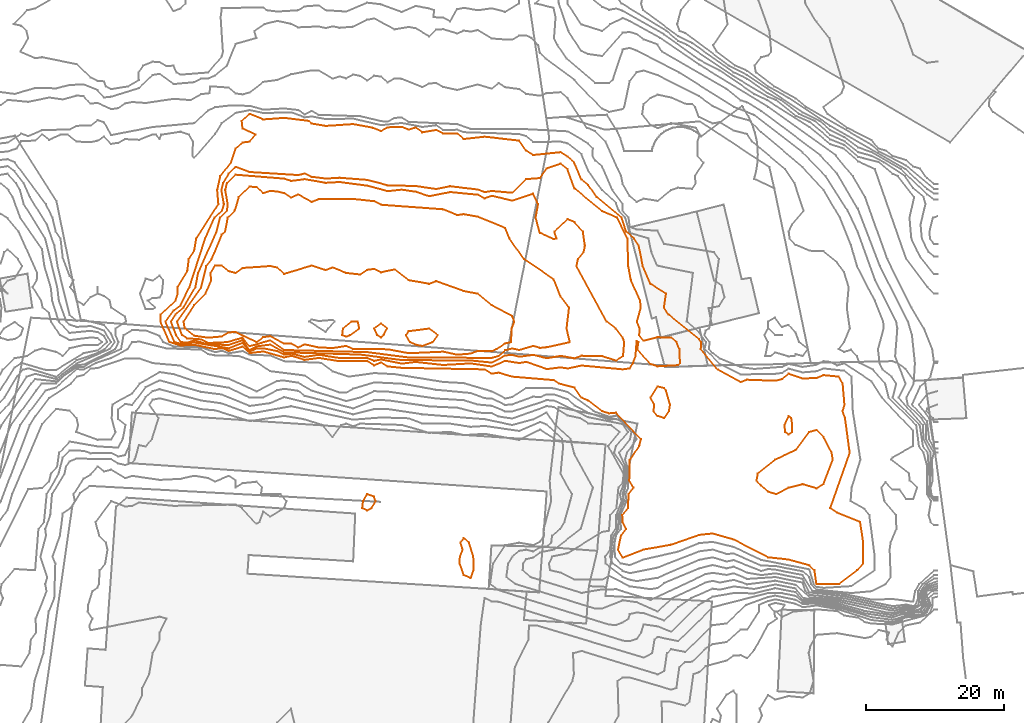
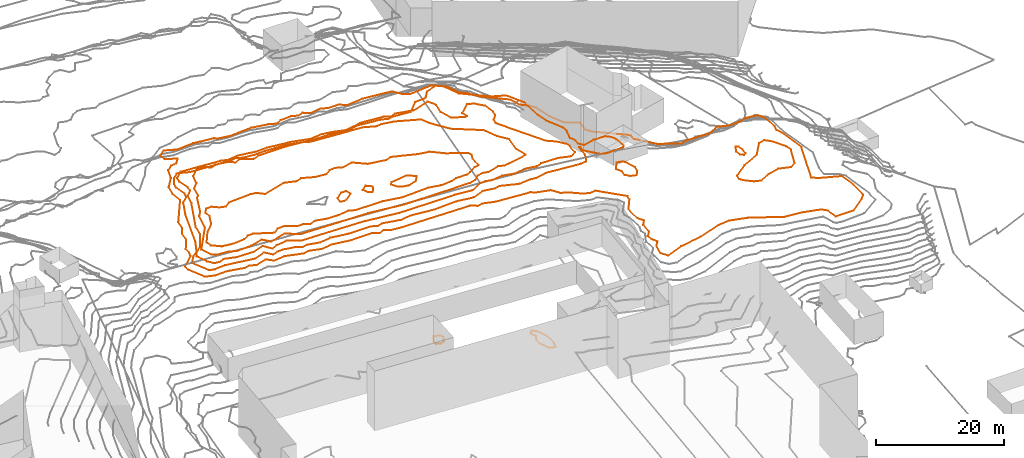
# Not in any storey, part 271 of 419: 13 proxies.
"""IFC2X3 model written with IfcOpenShell, lengths in metres."""

from ifc_helpers import new_model, entity, si_unit, frame, origin_with_axes, place, context, subcontext, project, element, save


model = new_model("IFC2X3")

# Units and contexts
model_context = context("Model", 3, precision=1e-05, world=origin_with_axes())
body_context = subcontext(model_context, "Body", "Model", "MODEL_VIEW")
ifc_project = project(units=[si_unit("AREAUNIT", "SQUARE_METRE"), si_unit("LENGTHUNIT", "METRE")], contexts=[model_context])

# Proxies
proxy_1_placement = place(None, frame((890.5037877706, 466.8976909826, 86.0), z_axis=(0.0, 0.0, 1.0), x_axis=(1.0, 0.0, 0.0)))
element("IfcBuildingElementProxy", 1, at=proxy_1_placement, Name="Contour 86.0 m", ObjectType="NOTDEFINED", context=body_context, shape_type="GeometricCurveSet", body=[
    entity("IfcGeometricCurveSet", [entity("IfcPolyline", [entity("IfcCartesianPoint", [1.1437787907, 0.0, 0.0]), entity("IfcCartesianPoint", [0.5882326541, -0.2127621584, 0.0]), entity("IfcCartesianPoint", [0.0, 0.0, 0.0]), entity("IfcCartesianPoint", [0.123954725, 1.0, 0.0]), entity("IfcCartesianPoint", [1.3215625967, 2.0, 0.0]), entity("IfcCartesianPoint", [2.2549417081, 2.0, 0.0]), entity("IfcCartesianPoint", [2.4728536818, 1.0, 0.0]), entity("IfcCartesianPoint", [1.1437787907, 0.0, 0.0])])]),
])
proxy_2_placement = place(None, frame((895.1336950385, 467.8976909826, 86.0), z_axis=(0.0, 0.0, 1.0), x_axis=(1.0, 0.0, 0.0)))
element("IfcBuildingElementProxy", 2, at=proxy_2_placement, Name="Contour 86.0 m", ObjectType="NOTDEFINED", context=body_context, shape_type="GeometricCurveSet", body=[
    entity("IfcGeometricCurveSet", [entity("IfcPolyline", [entity("IfcCartesianPoint", [1.3583304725, -1.0, 0.0]), entity("IfcCartesianPoint", [0.9583253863, -1.3157926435, 0.0]), entity("IfcCartesianPoint", [0.4365819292, -1.0, 0.0]), entity("IfcCartesianPoint", [0.0, 0.0, 0.0]), entity("IfcCartesianPoint", [0.9583253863, 0.7187611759, 0.0]), entity("IfcCartesianPoint", [1.8429464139, 0.0, 0.0]), entity("IfcCartesianPoint", [1.3583304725, -1.0, 0.0])])]),
])
proxy_3_placement = place(None, frame((899.7235983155, 466.8976909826, 86.0), z_axis=(0.0, 0.0, 1.0), x_axis=(1.0, 0.0, 0.0)))
element("IfcBuildingElementProxy", 3, at=proxy_3_placement, Name="Contour 86.0 m", ObjectType="NOTDEFINED", context=body_context, shape_type="GeometricCurveSet", body=[
    entity("IfcGeometricCurveSet", [entity("IfcPolyline", [entity("IfcCartesianPoint", [3.8845543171, -1.0, 0.0]), entity("IfcCartesianPoint", [2.3684221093, -1.5681786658, 0.0]), entity("IfcCartesianPoint", [1.3684221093, -1.3749986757, 0.0]), entity("IfcCartesianPoint", [0.5743057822, -1.0, 0.0]), entity("IfcCartesianPoint", [0.0, 0.0, 0.0]), entity("IfcCartesianPoint", [0.3684221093, 0.5833359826, 0.0]), entity("IfcCartesianPoint", [3.3684221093, 0.9629556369, 0.0]), entity("IfcCartesianPoint", [4.5991868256, 0.0, 0.0]), entity("IfcCartesianPoint", [3.8845543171, -1.0, 0.0])])]),
])
proxy_4_placement = place(None, frame((867.5657029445, 468.8976909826, 85.0), z_axis=(0.0, 0.0, 1.0), x_axis=(1.0, 0.0, 0.0)))
element("IfcBuildingElementProxy", 4, at=proxy_4_placement, Name="Contour 85.0 m", ObjectType="NOTDEFINED", context=body_context, shape_type="GeometricCurveSet", body=[
    entity("IfcGeometricCurveSet", [entity("IfcPolyline", [entity("IfcCartesianPoint", [45.2442641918, -4.0, 0.0]), entity("IfcCartesianPoint", [44.5263174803, -4.3218394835, 0.0]), entity("IfcCartesianPoint", [42.5263174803, -4.2708358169, 0.0]), entity("IfcCartesianPoint", [41.5263174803, -4.6621611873, 0.0]), entity("IfcCartesianPoint", [39.5263174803, -4.8250014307, 0.0]), entity("IfcCartesianPoint", [37.5263174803, -4.3837227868, 0.0]), entity("IfcCartesianPoint", [32.5263174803, -4.6091974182, 0.0]), entity("IfcCartesianPoint", [29.5263174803, -4.0387620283, 0.0]), entity("IfcCartesianPoint", [24.5263174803, -4.000000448, 0.0]), entity("IfcCartesianPoint", [23.5263174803, -3.5526294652, 0.0]), entity("IfcCartesianPoint", [21.5263174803, -3.8571409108, 0.0]), entity("IfcCartesianPoint", [19.5263174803, -3.7746448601, 0.0]), entity("IfcCartesianPoint", [17.5263174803, -3.3214259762, 0.0]), entity("IfcCartesianPoint", [16.5263174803, -3.7699966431, 0.0]), entity("IfcCartesianPoint", [15.5263174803, -3.2045464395, 0.0]), entity("IfcCartesianPoint", [14.5263174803, -3.2328755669, 0.0]), entity("IfcCartesianPoint", [12.5263174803, -2.1377260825, 0.0]), entity("IfcCartesianPoint", [11.5263174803, -2.2818783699, 0.0]), entity("IfcCartesianPoint", [10.5263134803, -3.0, 0.0]), entity("IfcCartesianPoint", [7.5263174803, -1.564705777, 0.0]), entity("IfcCartesianPoint", [6.5263174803, -1.584616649, 0.0]), entity("IfcCartesianPoint", [5.5263174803, -2.1739164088, 0.0]), entity("IfcCartesianPoint", [3.5263174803, -2.3666696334, 0.0]), entity("IfcCartesianPoint", [1.5263174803, -2.0794695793, 0.0]), entity("IfcCartesianPoint", [0.1788568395, -1.0, 0.0]), entity("IfcCartesianPoint", [0.0, 0.0, 0.0]), entity("IfcCartesianPoint", [1.5263174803, 2.3655903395, 0.0]), entity("IfcCartesianPoint", [3.1513150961, 4.0, 0.0]), entity("IfcCartesianPoint", [3.999046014, 6.0, 0.0]), entity("IfcCartesianPoint", [3.8834655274, 7.0, 0.0]), entity("IfcCartesianPoint", [4.5263174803, 8.0535694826, 0.0]), entity("IfcCartesianPoint", [5.5263174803, 8.0526231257, 0.0]), entity("IfcCartesianPoint", [6.5263174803, 7.259261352, 0.0]), entity("IfcCartesianPoint", [7.5263174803, 7.000004, 0.0]), entity("IfcCartesianPoint", [8.5263174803, 7.7222269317, 0.0]), entity("IfcCartesianPoint", [12.5263174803, 8.0000047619, 0.0]), entity("IfcCartesianPoint", [13.5263174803, 7.7826115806, 0.0]), entity("IfcCartesianPoint", [14.5263174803, 6.873681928, 0.0]), entity("IfcCartesianPoint", [18.5263174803, 8.0740625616, 0.0]), entity("IfcCartesianPoint", [20.5263174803, 7.4166640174, 0.0]), entity("IfcCartesianPoint", [21.5263174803, 7.80768215, 0.0]), entity("IfcCartesianPoint", [23.5263174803, 7.0000076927, 0.0]), entity("IfcCartesianPoint", [25.5263174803, 6.7727280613, 0.0]), entity("IfcCartesianPoint", [26.5263174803, 7.4615294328, 0.0]), entity("IfcCartesianPoint", [27.5263174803, 7.5882326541, 0.0]), entity("IfcCartesianPoint", [28.5263174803, 7.0952225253, 0.0]), entity("IfcCartesianPoint", [30.5263174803, 7.5238147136, 0.0]), entity("IfcCartesianPoint", [32.5263174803, 5.9545442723, 0.0]), entity("IfcCartesianPoint", [35.5263174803, 5.4375089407, 0.0]), entity("IfcCartesianPoint", [36.5263174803, 5.8125029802, 0.0]), entity("IfcCartesianPoint", [40.5263174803, 4.3809627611, 0.0]), entity("IfcCartesianPoint", [42.5263174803, 4.0000045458, 0.0]), entity("IfcCartesianPoint", [44.5263174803, 2.333333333, 0.0]), entity("IfcCartesianPoint", [47.5263174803, 0.7778060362, 0.0]), entity("IfcCartesianPoint", [47.8306595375, 0.0, 0.0]), entity("IfcCartesianPoint", [47.4429682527, -1.0, 0.0]), entity("IfcCartesianPoint", [47.3684311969, -3.0, 0.0]), entity("IfcCartesianPoint", [46.5263174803, -3.1720468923, 0.0]), entity("IfcCartesianPoint", [45.2442641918, -4.0, 0.0])])]),
])
proxy_5_placement = place(None, frame((865.7420210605, 468.8976909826, 83.0), z_axis=(0.0, 0.0, 1.0), x_axis=(1.0, 0.0, 0.0)))
element("IfcBuildingElementProxy", 5, at=proxy_5_placement, Name="Contour 83.0 m", ObjectType="NOTDEFINED", context=body_context, shape_type="GeometricCurveSet", body=[
    entity("IfcGeometricCurveSet", [entity("IfcPolyline", [entity("IfcCartesianPoint", [65.3857078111, -5.0, 0.0]), entity("IfcCartesianPoint", [64.3499993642, -5.6747005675, 0.0]), entity("IfcCartesianPoint", [62.3499993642, -5.0441158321, 0.0]), entity("IfcCartesianPoint", [59.3499993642, -4.9722266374, 0.0]), entity("IfcCartesianPoint", [58.3499993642, -5.3378388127, 0.0]), entity("IfcCartesianPoint", [56.3499993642, -5.0000016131, 0.0]), entity("IfcCartesianPoint", [54.3499993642, -5.333333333, 0.0]), entity("IfcCartesianPoint", [52.3499993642, -4.851350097, 0.0]), entity("IfcCartesianPoint", [50.3499993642, -5.1181794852, 0.0]), entity("IfcCartesianPoint", [49.3499993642, -4.8504648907, 0.0]), entity("IfcCartesianPoint", [48.3499993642, -4.9318209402, 0.0]), entity("IfcCartesianPoint", [46.3499993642, -5.9657514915, 0.0]), entity("IfcCartesianPoint", [43.3499993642, -5.6603769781, 0.0]), entity("IfcCartesianPoint", [33.3499993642, -5.6009861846, 0.0]), entity("IfcCartesianPoint", [27.3499993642, -4.8046873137, 0.0]), entity("IfcCartesianPoint", [16.3499993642, -4.4752485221, 0.0]), entity("IfcCartesianPoint", [14.3499993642, -3.3636345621, 0.0]), entity("IfcCartesianPoint", [12.3499993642, -3.6191944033, 0.0]), entity("IfcCartesianPoint", [11.3499993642, -4.1140148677, 0.0]), entity("IfcCartesianPoint", [10.3499993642, -2.7102476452, 0.0]), entity("IfcCartesianPoint", [8.3499993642, -3.4106273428, 0.0]), entity("IfcCartesianPoint", [5.3499993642, -3.3396229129, 0.0]), entity("IfcCartesianPoint", [3.3499993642, -2.741721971, 0.0]), entity("IfcCartesianPoint", [2.3499993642, -3.0812642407, 0.0]), entity("IfcCartesianPoint", [1.4269194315, -3.0, 0.0]), entity("IfcCartesianPoint", [0.7441598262, -2.0, 0.0]), entity("IfcCartesianPoint", [0.0, 0.0, 0.0]), entity("IfcCartesianPoint", [0.6290694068, 1.0, 0.0]), entity("IfcCartesianPoint", [1.788269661, 2.0, 0.0]), entity("IfcCartesianPoint", [3.5326070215, 5.0, 0.0]), entity("IfcCartesianPoint", [3.9158930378, 7.0, 0.0]), entity("IfcCartesianPoint", [6.5807663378, 13.0, 0.0]), entity("IfcCartesianPoint", [7.0916674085, 15.0, 0.0]), entity("IfcCartesianPoint", [8.0928563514, 16.0, 0.0]), entity("IfcCartesianPoint", [8.2103346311, 17.0, 0.0]), entity("IfcCartesianPoint", [7.8499988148, 19.0, 0.0]), entity("IfcCartesianPoint", [8.0851354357, 20.0, 0.0]), entity("IfcCartesianPoint", [9.3499993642, 21.209874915, 0.0]), entity("IfcCartesianPoint", [16.3499993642, 20.6416655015, 0.0]), entity("IfcCartesianPoint", [17.3499993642, 20.3170737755, 0.0]), entity("IfcCartesianPoint", [19.3499993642, 20.5652176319, 0.0]), entity("IfcCartesianPoint", [22.3499993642, 20.0370356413, 0.0]), entity("IfcCartesianPoint", [24.3499993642, 20.1543207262, 0.0]), entity("IfcCartesianPoint", [28.3499993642, 19.6249985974, 0.0]), entity("IfcCartesianPoint", [31.3499993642, 18.831684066, 0.0]), entity("IfcCartesianPoint", [33.3499993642, 19.0500011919, 0.0]), entity("IfcCartesianPoint", [35.3499993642, 18.7456130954, 0.0]), entity("IfcCartesianPoint", [37.3499993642, 18.0963875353, 0.0]), entity("IfcCartesianPoint", [40.3499993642, 18.699998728, 0.0]), entity("IfcCartesianPoint", [44.3499993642, 18.3165486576, 0.0]), entity("IfcCartesianPoint", [45.3499993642, 17.7978702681, 0.0]), entity("IfcCartesianPoint", [46.3499993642, 18.1655161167, 0.0]), entity("IfcCartesianPoint", [49.3499993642, 17.4607835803, 0.0]), entity("IfcCartesianPoint", [52.3499993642, 18.4583399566, 0.0]), entity("IfcCartesianPoint", [53.0868386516, 17.0, 0.0]), entity("IfcCartesianPoint", [52.7413051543, 15.0, 0.0]), entity("IfcCartesianPoint", [53.3499993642, 12.80768215, 0.0]), entity("IfcCartesianPoint", [55.3499993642, 11.9047774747, 0.0]), entity("IfcCartesianPoint", [55.7499688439, 12.0, 0.0]), entity("IfcCartesianPoint", [55.4500222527, 13.0, 0.0]), entity("IfcCartesianPoint", [57.3499993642, 14.7857220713, 0.0]), entity("IfcCartesianPoint", [58.3499993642, 14.3599853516, 0.0]), entity("IfcCartesianPoint", [59.5662189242, 13.0, 0.0]), entity("IfcCartesianPoint", [59.861629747, 11.0, 0.0]), entity("IfcCartesianPoint", [59.683328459, 10.0, 0.0]), entity("IfcCartesianPoint", [58.8500029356, 9.0, 0.0]), entity("IfcCartesianPoint", [58.6416673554, 8.0, 0.0]), entity("IfcCartesianPoint", [63.0062471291, 0.0, 0.0]), entity("IfcCartesianPoint", [64.2999898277, -1.0, 0.0]), entity("IfcCartesianPoint", [65.3499993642, -2.3157852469, 0.0]), entity("IfcCartesianPoint", [65.5531202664, -3.0, 0.0]), entity("IfcCartesianPoint", [65.3857078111, -5.0, 0.0])])]),
])
proxy_6_placement = place(None, frame((866.6052941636, 468.8976909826, 84.0), z_axis=(0.0, 0.0, 1.0), x_axis=(1.0, 0.0, 0.0)))
element("IfcBuildingElementProxy", 6, at=proxy_6_placement, Name="Contour 84.0 m", ObjectType="NOTDEFINED", context=body_context, shape_type="GeometricCurveSet", body=[
    entity("IfcGeometricCurveSet", [entity("IfcPolyline", [entity("IfcCartesianPoint", [46.5388983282, -5.0, 0.0]), entity("IfcCartesianPoint", [45.4867262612, -5.2808231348, 0.0]), entity("IfcCartesianPoint", [33.4867262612, -5.229966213, 0.0]), entity("IfcCartesianPoint", [27.4867262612, -4.4497809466, 0.0]), entity("IfcCartesianPoint", [15.4867262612, -4.1452153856, 0.0]), entity("IfcCartesianPoint", [13.4867262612, -2.7365263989, 0.0]), entity("IfcCartesianPoint", [10.4867262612, -3.5905527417, 0.0]), entity("IfcCartesianPoint", [9.4867262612, -2.3568909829, 0.0]), entity("IfcCartesianPoint", [7.2281037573, -3.0, 0.0]), entity("IfcCartesianPoint", [4.4867262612, -3.129979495, 0.0]), entity("IfcCartesianPoint", [3.4867262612, -2.6061953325, 0.0]), entity("IfcCartesianPoint", [1.4867262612, -2.4529911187, 0.0]), entity("IfcCartesianPoint", [0.7295818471, -2.0, 0.0]), entity("IfcCartesianPoint", [0.0, 0.0, 0.0]), entity("IfcCartesianPoint", [3.4867262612, 4.8928610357, 0.0]), entity("IfcCartesianPoint", [4.2430285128, 8.0, 0.0]), entity("IfcCartesianPoint", [5.0071348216, 9.0, 0.0]), entity("IfcCartesianPoint", [6.4867262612, 12.5454561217, 0.0]), entity("IfcCartesianPoint", [6.9629115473, 13.0, 0.0]), entity("IfcCartesianPoint", [7.3492260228, 15.0, 0.0]), entity("IfcCartesianPoint", [8.363442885, 16.0, 0.0]), entity("IfcCartesianPoint", [8.9412969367, 18.0, 0.0]), entity("IfcCartesianPoint", [10.4867262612, 19.5000062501, 0.0]), entity("IfcCartesianPoint", [11.4867262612, 19.4000000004, 0.0]), entity("IfcCartesianPoint", [12.4867262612, 18.5384705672, 0.0]), entity("IfcCartesianPoint", [13.4867262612, 18.8750178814, 0.0]), entity("IfcCartesianPoint", [14.4867262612, 18.7777730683, 0.0]), entity("IfcCartesianPoint", [15.4867262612, 18.5500114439, 0.0]), entity("IfcCartesianPoint", [16.4867262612, 17.8888865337, 0.0]), entity("IfcCartesianPoint", [17.4867262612, 18.3749940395, 0.0]), entity("IfcCartesianPoint", [19.4867262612, 17.2857220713, 0.0]), entity("IfcCartesianPoint", [20.4867262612, 17.666666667, 0.0]), entity("IfcCartesianPoint", [25.4867262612, 17.7058744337, 0.0]), entity("IfcCartesianPoint", [28.4867262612, 17.3749940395, 0.0]), entity("IfcCartesianPoint", [29.4867262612, 16.8666836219, 0.0]), entity("IfcCartesianPoint", [38.4867262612, 16.2105284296, 0.0]), entity("IfcCartesianPoint", [40.4867262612, 15.3846244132, 0.0]), entity("IfcCartesianPoint", [41.4867262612, 15.5000062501, 0.0]), entity("IfcCartesianPoint", [43.4867262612, 15.142833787, 0.0]), entity("IfcCartesianPoint", [47.4867262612, 13.5000083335, 0.0]), entity("IfcCartesianPoint", [48.0867110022, 12.0, 0.0]), entity("IfcCartesianPoint", [50.2010586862, 9.0, 0.0]), entity("IfcCartesianPoint", [54.4867262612, 6.0833492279, 0.0]), entity("IfcCartesianPoint", [55.4867262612, 3.6250238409, 0.0]), entity("IfcCartesianPoint", [56.7089202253, 2.0, 0.0]), entity("IfcCartesianPoint", [56.3438743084, -1.0, 0.0]), entity("IfcCartesianPoint", [56.8200595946, -3.0, 0.0]), entity("IfcCartesianPoint", [53.4867262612, -3.7460279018, 0.0]), entity("IfcCartesianPoint", [52.4867262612, -3.8382344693, 0.0]), entity("IfcCartesianPoint", [51.4867262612, -3.5487769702, 0.0]), entity("IfcCartesianPoint", [49.4867262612, -4.1470597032, 0.0]), entity("IfcCartesianPoint", [48.4867262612, -3.9150975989, 0.0]), entity("IfcCartesianPoint", [47.4867262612, -4.1742450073, 0.0]), entity("IfcCartesianPoint", [46.5388983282, -5.0, 0.0])])]),
])
proxy_7_placement = place(None, frame((864.9325998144, 468.8976909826, 82.0), z_axis=(0.0, 0.0, 1.0), x_axis=(1.0, 0.0, 0.0)))
element("IfcBuildingElementProxy", 7, at=proxy_7_placement, Name="Contour 82.0 m", ObjectType="NOTDEFINED", context=body_context, shape_type="GeometricCurveSet", body=[
    entity("IfcGeometricCurveSet", [entity("IfcPolyline", [entity("IfcCartesianPoint", [74.4321352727, -6.0, 0.0]), entity("IfcCartesianPoint", [74.1594206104, -6.333333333, 0.0]), entity("IfcCartesianPoint", [71.1594206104, -6.5000071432, 0.0]), entity("IfcCartesianPoint", [70.1594206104, -6.1817992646, 0.0]), entity("IfcCartesianPoint", [68.2594434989, -4.0, 0.0]), entity("IfcCartesianPoint", [68.4094682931, -3.0, 0.0]), entity("IfcCartesianPoint", [68.1594206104, -2.8749761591, 0.0]), entity("IfcCartesianPoint", [67.9957895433, -5.0, 0.0]), entity("IfcCartesianPoint", [67.6139644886, -6.0, 0.0]), entity("IfcCartesianPoint", [67.1594206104, -6.799987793, 0.0]), entity("IfcCartesianPoint", [66.1594206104, -6.9499990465, 0.0]), entity("IfcCartesianPoint", [60.1594206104, -6.3846144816, 0.0]), entity("IfcCartesianPoint", [58.1594206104, -6.8181786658, 0.0]), entity("IfcCartesianPoint", [57.1594206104, -6.6551742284, 0.0]), entity("IfcCartesianPoint", [55.1594206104, -6.9062537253, 0.0]), entity("IfcCartesianPoint", [52.1594206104, -5.8557678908, 0.0]), entity("IfcCartesianPoint", [51.1594206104, -6.0344815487, 0.0]), entity("IfcCartesianPoint", [49.1594206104, -5.7109368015, 0.0]), entity("IfcCartesianPoint", [47.1594206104, -6.5307265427, 0.0]), entity("IfcCartesianPoint", [44.1594206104, -6.0799987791, 0.0]), entity("IfcCartesianPoint", [40.1594206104, -6.3107354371, 0.0]), entity("IfcCartesianPoint", [36.1594206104, -5.8702301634, 0.0]), entity("IfcCartesianPoint", [34.1594206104, -6.11585519, 0.0]), entity("IfcCartesianPoint", [31.1594206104, -5.5000004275, 0.0]), entity("IfcCartesianPoint", [30.1594206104, -5.7083340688, 0.0]), entity("IfcCartesianPoint", [29.1594206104, -5.3122360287, 0.0]), entity("IfcCartesianPoint", [25.1594206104, -5.3087551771, 0.0]), entity("IfcCartesianPoint", [22.1594206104, -4.83529454, 0.0]), entity("IfcCartesianPoint", [20.1594206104, -5.1385281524, 0.0]), entity("IfcCartesianPoint", [18.1594206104, -4.6845245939, 0.0]), entity("IfcCartesianPoint", [17.1594206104, -4.8052816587, 0.0]), entity("IfcCartesianPoint", [16.1594206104, -4.3018008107, 0.0]), entity("IfcCartesianPoint", [14.1594206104, -3.9061045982, 0.0]), entity("IfcCartesianPoint", [13.1594206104, -3.928791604, 0.0]), entity("IfcCartesianPoint", [12.1594206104, -4.35154418, 0.0]), entity("IfcCartesianPoint", [11.1594206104, -3.1005587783, 0.0]), entity("IfcCartesianPoint", [9.1594206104, -3.893719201, 0.0]), entity("IfcCartesianPoint", [4.1594206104, -3.0698416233, 0.0]), entity("IfcCartesianPoint", [2.1594206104, -3.2412935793, 0.0]), entity("IfcCartesianPoint", [1.3159424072, -3.0, 0.0]), entity("IfcCartesianPoint", [0.0, 0.0, 0.0]), entity("IfcCartesianPoint", [1.1594206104, 1.5714266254, 0.0]), entity("IfcCartesianPoint", [2.1594206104, 2.3052626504, 0.0]), entity("IfcCartesianPoint", [3.4664369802, 5.0, 0.0]), entity("IfcCartesianPoint", [5.7363417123, 12.0, 0.0]), entity("IfcCartesianPoint", [7.079128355, 15.0, 0.0]), entity("IfcCartesianPoint", [8.1879926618, 16.0, 0.0]), entity("IfcCartesianPoint", [8.4610969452, 17.0, 0.0]), entity("IfcCartesianPoint", [8.1045447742, 19.0, 0.0]), entity("IfcCartesianPoint", [8.3540156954, 20.0, 0.0]), entity("IfcCartesianPoint", [9.1594206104, 21.3953478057, 0.0]), entity("IfcCartesianPoint", [10.1594206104, 22.3495155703, 0.0]), entity("IfcCartesianPoint", [12.1594206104, 21.600001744, 0.0]), entity("IfcCartesianPoint", [19.1594206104, 21.1604909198, 0.0]), entity("IfcCartesianPoint", [20.1594206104, 21.3883514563, 0.0]), entity("IfcCartesianPoint", [21.1594206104, 20.9052630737, 0.0]), entity("IfcCartesianPoint", [23.1594206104, 20.6543214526, 0.0]), entity("IfcCartesianPoint", [25.1594206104, 20.7716036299, 0.0]), entity("IfcCartesianPoint", [29.1594206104, 20.4622632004, 0.0]), entity("IfcCartesianPoint", [32.1594206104, 19.674796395, 0.0]), entity("IfcCartesianPoint", [36.1594206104, 19.5772370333, 0.0]), entity("IfcCartesianPoint", [39.1594206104, 19.1470565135, 0.0]), entity("IfcCartesianPoint", [41.1594206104, 19.5423722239, 0.0]), entity("IfcCartesianPoint", [45.1594206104, 19.0694485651, 0.0]), entity("IfcCartesianPoint", [46.1594206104, 18.692306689, 0.0]), entity("IfcCartesianPoint", [47.1594206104, 18.8551727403, 0.0]), entity("IfcCartesianPoint", [50.1594206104, 18.5999959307, 0.0]), entity("IfcCartesianPoint", [52.1594206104, 20.566036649, 0.0]), entity("IfcCartesianPoint", [54.1594206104, 20.7323905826, 0.0]), entity("IfcCartesianPoint", [55.1594206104, 22.1428633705, 0.0]), entity("IfcCartesianPoint", [57.1594206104, 22.7999974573, 0.0]), entity("IfcCartesianPoint", [58.1390083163, 22.0, 0.0]), entity("IfcCartesianPoint", [59.1594206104, 19.2285776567, 0.0]), entity("IfcCartesianPoint", [63.1594206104, 15.9344247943, 0.0]), entity("IfcCartesianPoint", [65.3492957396, 15.0, 0.0]), entity("IfcCartesianPoint", [66.8151601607, 12.0, 0.0]), entity("IfcCartesianPoint", [66.9510886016, 8.0, 0.0]), entity("IfcCartesianPoint", [67.3207180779, 6.0, 0.0]), entity("IfcCartesianPoint", [68.6594239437, 3.0, 0.0]), entity("IfcCartesianPoint", [68.7594206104, 2.0, 0.0]), entity("IfcCartesianPoint", [68.1939106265, 0.0, 0.0]), entity("IfcCartesianPoint", [68.5969225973, -1.0, 0.0]), entity("IfcCartesianPoint", [68.5278353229, -2.0, 0.0]), entity("IfcCartesianPoint", [69.1594206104, -2.8000101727, 0.0]), entity("IfcCartesianPoint", [71.1594206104, -2.2941255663, 0.0]), entity("IfcCartesianPoint", [73.1594206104, -2.3333192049, 0.0]), entity("IfcCartesianPoint", [73.9094206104, -3.0, 0.0]), entity("IfcCartesianPoint", [74.3358859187, -4.0, 0.0]), entity("IfcCartesianPoint", [74.4321352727, -6.0, 0.0])])]),
])
proxy_8_placement = place(None, frame((935.0920158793, 457.8976909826, 82.0), z_axis=(0.0, 0.0, 1.0), x_axis=(1.0, 0.0, 0.0)))
element("IfcBuildingElementProxy", 8, at=proxy_8_placement, Name="Contour 82.0 m", ObjectType="NOTDEFINED", context=body_context, shape_type="GeometricCurveSet", body=[
    entity("IfcGeometricCurveSet", [entity("IfcPolyline", [entity("IfcCartesianPoint", [2.0000122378, -3.0, 0.0]), entity("IfcCartesianPoint", [1.0000045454, -2.6799926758, 0.0]), entity("IfcCartesianPoint", [0.4333353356, -2.0, 0.0]), entity("IfcCartesianPoint", [0.5416645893, -1.0, 0.0]), entity("IfcCartesianPoint", [0.0, 0.0, 0.0]), entity("IfcCartesianPoint", [1.0000045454, 1.5757617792, 0.0]), entity("IfcCartesianPoint", [2.0000045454, 1.333333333, 0.0]), entity("IfcCartesianPoint", [2.2500045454, 1.0, 0.0]), entity("IfcCartesianPoint", [2.8235392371, -1.0, 0.0]), entity("IfcCartesianPoint", [2.6666712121, -2.0, 0.0]), entity("IfcCartesianPoint", [2.0000122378, -3.0, 0.0])])]),
])
proxy_9_placement = place(None, frame((954.4556630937, 453.8976909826, 81.0), z_axis=(0.0, 0.0, 1.0), x_axis=(1.0, 0.0, 0.0)))
element("IfcBuildingElementProxy", 9, at=proxy_9_placement, Name="Contour 81.0 m", ObjectType="NOTDEFINED", context=body_context, shape_type="GeometricCurveSet", body=[
    entity("IfcGeometricCurveSet", [entity("IfcPolyline", [entity("IfcCartesianPoint", [0.6363573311, -1.3488405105, 0.0]), entity("IfcCartesianPoint", [1.1051125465, -1.0, 0.0]), entity("IfcCartesianPoint", [1.1485551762, 0.0, 0.0]), entity("IfcCartesianPoint", [1.0, 1.0, 0.0]), entity("IfcCartesianPoint", [0.6363573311, 1.2963025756, 0.0]), entity("IfcCartesianPoint", [0.0, 0.0, 0.0]), entity("IfcCartesianPoint", [0.1363606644, -1.0, 0.0]), entity("IfcCartesianPoint", [0.6363573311, -1.3488405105, 0.0])])]),
])
proxy_10_placement = place(None, frame((950.4253537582, 445.8976909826, 82.0), z_axis=(0.0, 0.0, 1.0), x_axis=(1.0, 0.0, 0.0)))
element("IfcBuildingElementProxy", 10, at=proxy_10_placement, Name="Contour 82.0 m", ObjectType="NOTDEFINED", context=body_context, shape_type="GeometricCurveSet", body=[
    entity("IfcGeometricCurveSet", [entity("IfcPolyline", [entity("IfcCartesianPoint", [2.80955495, -2.0, 0.0]), entity("IfcCartesianPoint", [1.6666666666, -1.6296306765, 0.0]), entity("IfcCartesianPoint", [0.6666666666, -0.7692352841, 0.0]), entity("IfcCartesianPoint", [0.0, 0.0, 0.0]), entity("IfcCartesianPoint", [0.1884101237, 1.0, 0.0]), entity("IfcCartesianPoint", [2.6666523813, 3.0, 0.0]), entity("IfcCartesianPoint", [5.6666666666, 4.4000050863, 0.0]), entity("IfcCartesianPoint", [7.5926041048, 7.0, 0.0]), entity("IfcCartesianPoint", [8.6666666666, 7.2999923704, 0.0]), entity("IfcCartesianPoint", [9.6666666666, 6.3077058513, 0.0]), entity("IfcCartesianPoint", [10.8666788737, 4.0, 0.0]), entity("IfcCartesianPoint", [11.0277695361, 3.0, 0.0]), entity("IfcCartesianPoint", [9.6666666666, -0.5000062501, 0.0]), entity("IfcCartesianPoint", [8.6666666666, -1.1428571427, 0.0]), entity("IfcCartesianPoint", [6.6666666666, -0.5483855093, 0.0]), entity("IfcCartesianPoint", [4.6666666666, -1.058834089, 0.0]), entity("IfcCartesianPoint", [2.80955495, -2.0, 0.0])])]),
])
proxy_11_placement = place(None, frame((893.3920127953, 441.8976909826, 73.0), z_axis=(0.0, 0.0, 1.0), x_axis=(1.0, 0.0, 0.0)))
element("IfcBuildingElementProxy", 11, at=proxy_11_placement, Name="Contour 73.0 m", ObjectType="NOTDEFINED", context=body_context, shape_type="GeometricCurveSet", body=[
    entity("IfcGeometricCurveSet", [entity("IfcPolyline", [entity("IfcCartesianPoint", [0.7000076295, -0.3500038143, 0.0]), entity("IfcCartesianPoint", [1.3363649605, 0.0, 0.0]), entity("IfcCartesianPoint", [1.9499837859, 1.0, 0.0]), entity("IfcCartesianPoint", [1.7000076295, 1.6665818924, 0.0]), entity("IfcCartesianPoint", [0.7000076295, 1.9999875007, 0.0]), entity("IfcCartesianPoint", [0.1285634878, 1.0, 0.0]), entity("IfcCartesianPoint", [0.0, 0.0, 0.0]), entity("IfcCartesianPoint", [0.7000076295, -0.3500038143, 0.0])])]),
])
proxy_12_placement = place(None, frame((907.4919899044, 433.8976909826, 73.0), z_axis=(0.0, 0.0, 1.0), x_axis=(1.0, 0.0, 0.0)))
element("IfcBuildingElementProxy", 12, at=proxy_12_placement, Name="Contour 73.0 m", ObjectType="NOTDEFINED", context=body_context, shape_type="GeometricCurveSet", body=[
    entity("IfcGeometricCurveSet", [entity("IfcPolyline", [entity("IfcCartesianPoint", [1.6000305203, -2.1250238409, 0.0]), entity("IfcCartesianPoint", [2.0, -1.0, 0.0]), entity("IfcCartesianPoint", [1.9750066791, 1.0, 0.0]), entity("IfcCartesianPoint", [1.350054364, 3.0, 0.0]), entity("IfcCartesianPoint", [0.6000305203, 3.666666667, 0.0]), entity("IfcCartesianPoint", [0.1000388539, 3.0, 0.0]), entity("IfcCartesianPoint", [0.4333426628, 2.0, 0.0]), entity("IfcCartesianPoint", [0.0285863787, 1.0, 0.0]), entity("IfcCartesianPoint", [0.0, 0.0, 0.0]), entity("IfcCartesianPoint", [0.6000305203, -1.6665818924, 0.0]), entity("IfcCartesianPoint", [1.6000305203, -2.1250238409, 0.0])])]),
])
proxy_13_placement = place(None, frame((864.2079646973, 468.8976909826, 81.0), z_axis=(0.0, 0.0, 1.0), x_axis=(1.0, 0.0, 0.0)))
element("IfcBuildingElementProxy", 13, at=proxy_13_placement, Name="Contour 81.0 m", ObjectType="NOTDEFINED", context=body_context, shape_type="GeometricCurveSet", body=[
    entity("IfcGeometricCurveSet", [entity("IfcPolyline", [entity("IfcCartesianPoint", [98.1296688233, -38.0, 0.0]), entity("IfcCartesianPoint", [94.8840557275, -38.0118105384, 0.0]), entity("IfcCartesianPoint", [94.6000304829, -36.0, 0.0]), entity("IfcCartesianPoint", [93.8840557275, -35.2840252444, 0.0]), entity("IfcCartesianPoint", [90.8840557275, -34.4563124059, 0.0]), entity("IfcCartesianPoint", [87.8840557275, -34.1222226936, 0.0]), entity("IfcCartesianPoint", [82.8840557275, -31.5466715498, 0.0]), entity("IfcCartesianPoint", [79.8840557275, -30.6833324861, 0.0]), entity("IfcCartesianPoint", [77.8840557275, -30.8846193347, 0.0]), entity("IfcCartesianPoint", [73.8840557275, -32.3026351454, 0.0]), entity("IfcCartesianPoint", [69.8840557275, -33.0000014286, 0.0]), entity("IfcCartesianPoint", [66.8840557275, -34.1808501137, 0.0]), entity("IfcCartesianPoint", [66.1901826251, -33.0, 0.0]), entity("IfcCartesianPoint", [66.6157622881, -31.0, 0.0]), entity("IfcCartesianPoint", [67.384054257, -30.0, 0.0]), entity("IfcCartesianPoint", [66.8840557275, -29.0555473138, 0.0]), entity("IfcCartesianPoint", [66.803364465, -28.0, 0.0]), entity("IfcCartesianPoint", [67.6255530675, -27.0, 0.0]), entity("IfcCartesianPoint", [67.7224825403, -25.0, 0.0]), entity("IfcCartesianPoint", [68.4156983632, -24.0, 0.0]), entity("IfcCartesianPoint", [67.8186553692, -23.0, 0.0]), entity("IfcCartesianPoint", [67.8840557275, -20.0769117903, 0.0]), entity("IfcCartesianPoint", [69.2551899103, -18.0, 0.0]), entity("IfcCartesianPoint", [69.4914174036, -17.0, 0.0]), entity("IfcCartesianPoint", [65.8840557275, -13.2096083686, 0.0]), entity("IfcCartesianPoint", [64.8840557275, -13.3034825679, 0.0]), entity("IfcCartesianPoint", [63.9001881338, -13.0, 0.0]), entity("IfcCartesianPoint", [61.8840557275, -11.4324332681, 0.0]), entity("IfcCartesianPoint", [60.8840557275, -11.0239990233, 0.0]), entity("IfcCartesianPoint", [59.8840557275, -9.5800018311, 0.0]), entity("IfcCartesianPoint", [57.6426782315, -9.0, 0.0]), entity("IfcCartesianPoint", [56.8840557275, -8.5000022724, 0.0]), entity("IfcCartesianPoint", [50.8840557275, -8.000033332, 0.0]), entity("IfcCartesianPoint", [48.8840557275, -7.4166825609, 0.0]), entity("IfcCartesianPoint", [47.8840557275, -7.5714285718, 0.0]), entity("IfcCartesianPoint", [46.8840557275, -6.9449996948, 0.0]), entity("IfcCartesianPoint", [34.8840557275, -6.7256115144, 0.0]), entity("IfcCartesianPoint", [32.8840557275, -6.5221219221, 0.0]), entity("IfcCartesianPoint", [31.8840557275, -5.9273510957, 0.0]), entity("IfcCartesianPoint", [30.8840557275, -6.3557715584, 0.0]), entity("IfcCartesianPoint", [29.8840557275, -5.734177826, 0.0]), entity("IfcCartesianPoint", [25.8840557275, -5.769585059, 0.0]), entity("IfcCartesianPoint", [22.8840557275, -5.2913919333, 0.0]), entity("IfcCartesianPoint", [20.8840557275, -5.5714290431, 0.0]), entity("IfcCartesianPoint", [18.8840557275, -4.9821435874, 0.0]), entity("IfcCartesianPoint", [17.8840557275, -5.2240454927, 0.0]), entity("IfcCartesianPoint", [14.8840557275, -4.3493461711, 0.0]), entity("IfcCartesianPoint", [12.8840557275, -4.5890734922, 0.0]), entity("IfcCartesianPoint", [11.8840557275, -3.6592177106, 0.0]), entity("IfcCartesianPoint", [9.8840557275, -4.2708331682, 0.0]), entity("IfcCartesianPoint", [8.8840557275, -3.840685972, 0.0]), entity("IfcCartesianPoint", [7.8840557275, -4.0264306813, 0.0]), entity("IfcCartesianPoint", [4.8840557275, -3.3873017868, 0.0]), entity("IfcCartesianPoint", [2.8840557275, -3.4900495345, 0.0]), entity("IfcCartesianPoint", [1.306590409, -3.0, 0.0]), entity("IfcCartesianPoint", [0.0, 0.0, 0.0]), entity("IfcCartesianPoint", [0.0507250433, 1.0, 0.0]), entity("IfcCartesianPoint", [2.1606493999, 3.0, 0.0]), entity("IfcCartesianPoint", [2.5090676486, 4.0, 0.0]), entity("IfcCartesianPoint", [2.4840557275, 5.0, 0.0]), entity("IfcCartesianPoint", [3.8840557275, 7.25, 0.0]), entity("IfcCartesianPoint", [4.1062826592, 9.0, 0.0]), entity("IfcCartesianPoint", [4.8840557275, 10.2666700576, 0.0]), entity("IfcCartesianPoint", [5.1822982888, 12.0, 0.0]), entity("IfcCartesianPoint", [8.3894332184, 17.0, 0.0]), entity("IfcCartesianPoint", [8.2194235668, 19.0, 0.0]), entity("IfcCartesianPoint", [8.6632779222, 21.0, 0.0]), entity("IfcCartesianPoint", [10.1965567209, 23.0, 0.0]), entity("IfcCartesianPoint", [10.8840557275, 25.0000062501, 0.0]), entity("IfcCartesianPoint", [11.8840557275, 25.8666836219, 0.0]), entity("IfcCartesianPoint", [12.8840557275, 26.0000166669, 0.0]), entity("IfcCartesianPoint", [13.7411674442, 27.0, 0.0]), entity("IfcCartesianPoint", [11.8840557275, 27.9166507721, 0.0]), entity("IfcCartesianPoint", [11.7664121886, 29.0, 0.0]), entity("IfcCartesianPoint", [12.8840557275, 30.0163037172, 0.0]), entity("IfcCartesianPoint", [14.8840557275, 29.2065230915, 0.0]), entity("IfcCartesianPoint", [17.8840557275, 29.4285714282, 0.0]), entity("IfcCartesianPoint", [21.4153005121, 29.0, 0.0]), entity("IfcCartesianPoint", [21.8840557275, 28.6052642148, 0.0]), entity("IfcCartesianPoint", [23.8840557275, 28.2676094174, 0.0]), entity("IfcCartesianPoint", [27.8840557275, 28.5322586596, 0.0]), entity("IfcCartesianPoint", [30.7277960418, 28.0, 0.0]), entity("IfcCartesianPoint", [31.8840557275, 27.5199991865, 0.0]), entity("IfcCartesianPoint", [32.8840557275, 28.0622412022, 0.0]), entity("IfcCartesianPoint", [34.8840557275, 28.1428583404, 0.0]), entity("IfcCartesianPoint", [35.8840557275, 27.7346983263, 0.0]), entity("IfcCartesianPoint", [36.8840557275, 28.0429690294, 0.0]), entity("IfcCartesianPoint", [37.8840557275, 27.3442604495, 0.0]), entity("IfcCartesianPoint", [39.8840557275, 27.6851891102, 0.0]), entity("IfcCartesianPoint", [40.8840557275, 27.1743573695, 0.0]), entity("IfcCartesianPoint", [42.8840557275, 27.1774202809, 0.0]), entity("IfcCartesianPoint", [43.8840557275, 26.3783778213, 0.0]), entity("IfcCartesianPoint", [46.8840557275, 26.711115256, 0.0]), entity("IfcCartesianPoint", [51.8840557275, 26.1386129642, 0.0]), entity("IfcCartesianPoint", [52.8840557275, 24.7000076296, 0.0]), entity("IfcCartesianPoint", [53.8840557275, 24.0605969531, 0.0]), entity("IfcCartesianPoint", [57.8840557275, 24.4677413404, 0.0]), entity("IfcCartesianPoint", [58.8840557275, 23.8245639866, 0.0]), entity("IfcCartesianPoint", [59.8432460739, 23.0, 0.0]), entity("IfcCartesianPoint", [60.8840557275, 20.5434793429, 0.0]), entity("IfcCartesianPoint", [61.8840557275, 19.7358495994, 0.0]), entity("IfcCartesianPoint", [63.119355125, 18.0, 0.0]), entity("IfcCartesianPoint", [66.7068415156, 15.0, 0.0]), entity("IfcCartesianPoint", [67.3565829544, 13.0, 0.0]), entity("IfcCartesianPoint", [68.51605646, 12.0, 0.0]), entity("IfcCartesianPoint", [69.1809348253, 11.0, 0.0]), entity("IfcCartesianPoint", [69.7708525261, 8.0, 0.0]), entity("IfcCartesianPoint", [70.8840557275, 5.4285558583, 0.0]), entity("IfcCartesianPoint", [73.1254332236, 4.0, 0.0]), entity("IfcCartesianPoint", [72.8285084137, 2.0, 0.0]), entity("IfcCartesianPoint", [73.4737990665, 1.0, 0.0]), entity("IfcCartesianPoint", [77.8840557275, -2.5754735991, 0.0]), entity("IfcCartesianPoint", [78.2173871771, -3.0, 0.0]), entity("IfcCartesianPoint", [78.160299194, -4.0, 0.0]), entity("IfcCartesianPoint", [80.6408191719, -7.0, 0.0]), entity("IfcCartesianPoint", [83.8840557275, -8.7802221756, 0.0]), entity("IfcCartesianPoint", [84.8840557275, -8.4416667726, 0.0]), entity("IfcCartesianPoint", [88.8840557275, -8.5899963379, 0.0]), entity("IfcCartesianPoint", [89.8840557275, -8.3482128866, 0.0]), entity("IfcCartesianPoint", [90.8840557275, -7.5789473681, 0.0]), entity("IfcCartesianPoint", [92.8840557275, -8.2674455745, 0.0]), entity("IfcCartesianPoint", [94.8840557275, -8.1818181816, 0.0]), entity("IfcCartesianPoint", [95.8840557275, -7.7692330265, 0.0]), entity("IfcCartesianPoint", [98.1240459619, -8.0, 0.0]), entity("IfcCartesianPoint", [98.6803512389, -9.0, 0.0]), entity("IfcCartesianPoint", [98.946553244, -12.0, 0.0]), entity("IfcCartesianPoint", [98.6686725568, -13.0, 0.0]), entity("IfcCartesianPoint", [99.0269154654, -14.0, 0.0]), entity("IfcCartesianPoint", [99.7054862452, -19.0, 0.0]), entity("IfcCartesianPoint", [96.8840609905, -27.0, 0.0]), entity("IfcCartesianPoint", [97.8840557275, -27.678583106, 0.0]), entity("IfcCartesianPoint", [101.2040630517, -29.0, 0.0]), entity("IfcCartesianPoint", [101.6590614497, -32.0, 0.0]), entity("IfcCartesianPoint", [101.6416272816, -35.0, 0.0]), entity("IfcCartesianPoint", [100.7507206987, -36.0, 0.0]), entity("IfcCartesianPoint", [98.1296688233, -38.0, 0.0])])]),
])

save(model, "model.ifc")
